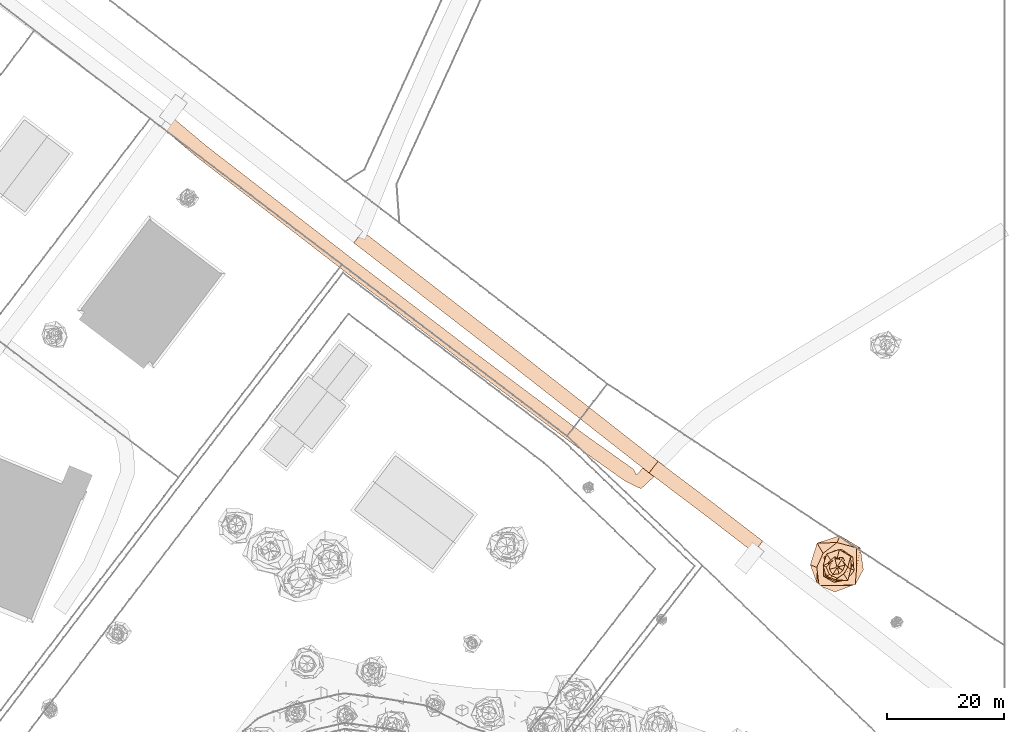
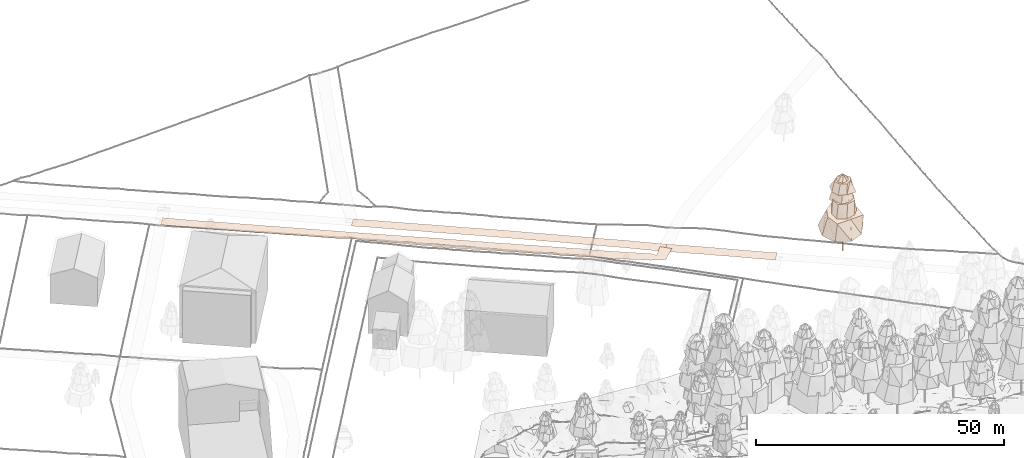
# Not in any storey, part 87 of 88: 4 geographic elements.
"""IFC4 model written with IfcOpenShell, lengths in metres."""

from ifc_helpers import new_model, si_unit, frame, origin_with_axes, place, context, subcontext, project, spatial, circle, extrude, faceted_brep, triangles, element, save


model = new_model("IFC4")

# Units and contexts
model_context = context("Model", 3, precision=1e-05, world=origin_with_axes())
body_context = subcontext(model_context, "Body", "Model", "MODEL_VIEW")
ifc_project = project(units=[si_unit("LENGTHUNIT", "METRE"), si_unit("AREAUNIT", "SQUARE_METRE"), si_unit("VOLUMEUNIT", "CUBIC_METRE"), si_unit("PLANEANGLEUNIT", "RADIAN")], contexts=[model_context])

# Sites
site_1_placement = place(None, origin_with_axes())
site_1 = spatial("IfcSite", under=ifc_project, at=site_1_placement, Name="CH907857693633", CompositionType="ELEMENT")
site_2_placement = place(None, origin_with_axes())
site_2 = spatial("IfcSite", under=site_1, at=site_2_placement, Name="Vegetation", CompositionType="ELEMENT")

# Geographic element
geographic_element_1_placement = place(None, frame((209.921000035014, 126.375003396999, 7.68109130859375), z_axis=(0.0, 0.0, 1.0), x_axis=(1.0, 0.0, 0.0)))
element("IfcGeographicElement", 1, at=geographic_element_1_placement, inside=site_2, Name="Tree_einzelbaum", ObjectType="VEGETATION", PredefinedType="USERDEFINED", context=body_context, shape_type="Brep", body=[
    extrude(circle(Radius=0.15), origin_with_axes(), (0.0, 0.0, 1.0), 5.04409912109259),
    faceted_brep([(4.46591493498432, -0.40213917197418, 5.04409912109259), (2.5869208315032, -3.09890882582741, 5.04409912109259), (-0.3806454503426, -4.2272186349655, 5.04409912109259), (-3.42627008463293, -2.86019691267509, 5.04409912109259), (-4.58660169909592, 0.413006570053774, 5.04409912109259), (-3.43208865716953, 4.11134724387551, 5.04409912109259), (0.484124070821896, 5.37638974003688, 5.04409912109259), (3.9413261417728, 3.2901576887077, 5.04409912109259), (3.25548679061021, 3.32255810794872, 9.57798317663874), (-0.0427895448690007, 4.19660084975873, 9.57798317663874), (-2.40839867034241, 2.35978116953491, 9.57798317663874), (-3.48304336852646, -0.0355139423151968, 9.57798317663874), (-3.08946653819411, -3.15311741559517, 9.57798317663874), (0.0316778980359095, -3.10682187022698, 9.57798317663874), (3.07125626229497, -3.00925788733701, 9.57798317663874), (3.32352738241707, 0.0338874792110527, 9.57798317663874), (3.9413261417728, 3.2901576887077, 5.04409912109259), (0.484124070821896, 5.37638974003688, 5.04409912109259), (-0.0427895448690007, 4.19660084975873, 9.57798317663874), (3.25548679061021, 3.32255810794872, 9.57798317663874), (0.484124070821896, 5.37638974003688, 5.04409912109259), (-3.43208865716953, 4.11134724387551, 5.04409912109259), (-2.40839867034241, 2.35978116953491, 9.57798317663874), (-0.0427895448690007, 4.19660084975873, 9.57798317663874), (-3.43208865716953, 4.11134724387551, 5.04409912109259), (-4.58660169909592, 0.413006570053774, 5.04409912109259), (-3.48304336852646, -0.0355139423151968, 9.57798317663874), (-2.40839867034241, 2.35978116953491, 9.57798317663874), (-4.58660169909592, 0.413006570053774, 5.04409912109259), (-3.42627008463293, -2.86019691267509, 5.04409912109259), (-3.08946653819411, -3.15311741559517, 9.57798317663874), (-3.48304336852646, -0.0355139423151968, 9.57798317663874), (-3.42627008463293, -2.86019691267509, 5.04409912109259), (-0.3806454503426, -4.2272186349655, 5.04409912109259), (0.0316778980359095, -3.10682187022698, 9.57798317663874), (-3.08946653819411, -3.15311741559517, 9.57798317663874), (-0.3806454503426, -4.2272186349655, 5.04409912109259), (2.5869208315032, -3.09890882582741, 5.04409912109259), (3.07125626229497, -3.00925788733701, 9.57798317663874), (0.0316778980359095, -3.10682187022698, 9.57798317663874), (2.5869208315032, -3.09890882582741, 5.04409912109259), (4.46591493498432, -0.40213917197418, 5.04409912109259), (3.32352738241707, 0.0338874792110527, 9.57798317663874), (3.07125626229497, -3.00925788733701, 9.57798317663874), (4.46591493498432, -0.40213917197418, 5.04409912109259), (3.9413261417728, 3.2901576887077, 5.04409912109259), (3.25548679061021, 3.32255810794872, 9.57798317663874), (3.32352738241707, 0.0338874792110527, 9.57798317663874)], [[[0, 1, 2, 3, 4, 5, 6, 7]], [[8, 9, 10, 11, 12, 13, 14, 15]], [[16, 17, 18, 19]], [[20, 21, 22, 23]], [[24, 25, 26, 27]], [[28, 29, 30, 31]], [[32, 33, 34, 35]], [[36, 37, 38, 39]], [[40, 41, 42, 43]], [[44, 45, 46, 47]]]),
    faceted_brep([(2.94812634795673, -0.623890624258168, 8.89790056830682), (1.43654336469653, -2.20776112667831, 8.89790056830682), (-0.552515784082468, -2.61085241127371, 8.89790056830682), (-2.3669569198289, -1.54012869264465, 8.89790056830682), (-2.34691301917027, 0.496660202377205, 8.89790056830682), (-1.43387037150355, 2.20365311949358, 8.89790056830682), (0.6732467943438, 3.18135348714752, 8.89790056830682), (2.7342347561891, 1.77910859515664, 8.89790056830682), (2.06122055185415, 1.65612563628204, 13.0570825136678), (0.240647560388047, 2.20829799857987, 13.0570825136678), (-1.41483675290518, 1.7609114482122, 13.0570825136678), (-2.16693121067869, 0.236139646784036, 13.0570825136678), (-2.03448978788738, -1.63464831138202, 13.0570825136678), (-0.25998897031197, -2.38578409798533, 13.0570825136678), (1.61368704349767, -2.00840131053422, 13.0570825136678), (2.40416358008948, -0.261991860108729, 13.0570825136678), (2.7342347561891, 1.77910859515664, 8.89790056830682), (0.6732467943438, 3.18135348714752, 8.89790056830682), (0.240647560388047, 2.20829799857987, 13.0570825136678), (2.06122055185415, 1.65612563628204, 13.0570825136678), (0.6732467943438, 3.18135348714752, 8.89790056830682), (-1.43387037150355, 2.20365311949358, 8.89790056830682), (-1.41483675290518, 1.7609114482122, 13.0570825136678), (0.240647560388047, 2.20829799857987, 13.0570825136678), (-1.43387037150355, 2.20365311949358, 8.89790056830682), (-2.34691301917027, 0.496660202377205, 8.89790056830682), (-2.16693121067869, 0.236139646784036, 13.0570825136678), (-1.41483675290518, 1.7609114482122, 13.0570825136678), (-2.34691301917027, 0.496660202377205, 8.89790056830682), (-2.3669569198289, -1.54012869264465, 8.89790056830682), (-2.03448978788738, -1.63464831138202, 13.0570825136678), (-2.16693121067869, 0.236139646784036, 13.0570825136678), (-2.3669569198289, -1.54012869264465, 8.89790056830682), (-0.552515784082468, -2.61085241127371, 8.89790056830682), (-0.25998897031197, -2.38578409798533, 13.0570825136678), (-2.03448978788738, -1.63464831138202, 13.0570825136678), (-0.552515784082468, -2.61085241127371, 8.89790056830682), (1.43654336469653, -2.20776112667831, 8.89790056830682), (1.61368704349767, -2.00840131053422, 13.0570825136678), (-0.25998897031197, -2.38578409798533, 13.0570825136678), (1.43654336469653, -2.20776112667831, 8.89790056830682), (2.94812634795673, -0.623890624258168, 8.89790056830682), (2.40416358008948, -0.261991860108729, 13.0570825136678), (1.61368704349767, -2.00840131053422, 13.0570825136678), (2.94812634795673, -0.623890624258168, 8.89790056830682), (2.7342347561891, 1.77910859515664, 8.89790056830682), (2.06122055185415, 1.65612563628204, 13.0570825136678), (2.40416358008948, -0.261991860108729, 13.0570825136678)], [[[0, 1, 2, 3, 4, 5, 6, 7]], [[8, 9, 10, 11, 12, 13, 14, 15]], [[16, 17, 18, 19]], [[20, 21, 22, 23]], [[24, 25, 26, 27]], [[28, 29, 30, 31]], [[32, 33, 34, 35]], [[36, 37, 38, 39]], [[40, 41, 42, 43]], [[44, 45, 46, 47]]]),
    faceted_brep([(1.79992255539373, -1.37208028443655, 12.4332052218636), (0.278519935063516, -2.06493393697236, 12.4332052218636), (-1.46054604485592, -1.91597372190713, 12.4332052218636), (-1.95584005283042, -0.263805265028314, 12.4332052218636), (-2.2463902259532, 1.71242242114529, 12.4332052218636), (-0.386849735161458, 2.86808607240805, 12.4332052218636), (1.3965947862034, 1.83208117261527, 12.4332052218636), (2.62991785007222, 0.354725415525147, 12.4332052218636), (1.47576198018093, 0.351884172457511, 15.6789238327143), (0.815355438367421, 1.32592815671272, 15.6789238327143), (-0.38976280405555, 1.63462062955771, 15.6789238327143), (-1.64325585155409, 1.01049034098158, 15.6789238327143), (-1.51506397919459, -0.361255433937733, 15.6789238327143), (-0.937257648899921, -1.52416510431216, 15.6789238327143), (0.320310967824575, -1.3433475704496, 15.6789238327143), (1.58520406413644, -0.974792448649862, 15.6789238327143), (2.62991785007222, 0.354725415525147, 12.4332052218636), (1.3965947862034, 1.83208117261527, 12.4332052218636), (0.815355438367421, 1.32592815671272, 15.6789238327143), (1.47576198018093, 0.351884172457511, 15.6789238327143), (1.3965947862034, 1.83208117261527, 12.4332052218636), (-0.386849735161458, 2.86808607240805, 12.4332052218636), (-0.38976280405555, 1.63462062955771, 15.6789238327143), (0.815355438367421, 1.32592815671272, 15.6789238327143), (-0.386849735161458, 2.86808607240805, 12.4332052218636), (-2.2463902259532, 1.71242242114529, 12.4332052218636), (-1.64325585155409, 1.01049034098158, 15.6789238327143), (-0.38976280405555, 1.63462062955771, 15.6789238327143), (-2.2463902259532, 1.71242242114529, 12.4332052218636), (-1.95584005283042, -0.263805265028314, 12.4332052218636), (-1.51506397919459, -0.361255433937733, 15.6789238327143), (-1.64325585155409, 1.01049034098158, 15.6789238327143), (-1.95584005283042, -0.263805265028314, 12.4332052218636), (-1.46054604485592, -1.91597372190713, 12.4332052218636), (-0.937257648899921, -1.52416510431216, 15.6789238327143), (-1.51506397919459, -0.361255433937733, 15.6789238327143), (-1.46054604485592, -1.91597372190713, 12.4332052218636), (0.278519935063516, -2.06493393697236, 12.4332052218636), (0.320310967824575, -1.3433475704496, 15.6789238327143), (-0.937257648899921, -1.52416510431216, 15.6789238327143), (0.278519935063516, -2.06493393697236, 12.4332052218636), (1.79992255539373, -1.37208028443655, 12.4332052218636), (1.58520406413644, -0.974792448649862, 15.6789238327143), (0.320310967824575, -1.3433475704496, 15.6789238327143), (1.79992255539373, -1.37208028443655, 12.4332052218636), (2.62991785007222, 0.354725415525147, 12.4332052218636), (1.47576198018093, 0.351884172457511, 15.6789238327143), (1.58520406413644, -0.974792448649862, 15.6789238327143)], [[[0, 1, 2, 3, 4, 5, 6, 7]], [[8, 9, 10, 11, 12, 13, 14, 15]], [[16, 17, 18, 19]], [[20, 21, 22, 23]], [[24, 25, 26, 27]], [[28, 29, 30, 31]], [[32, 33, 34, 35]], [[36, 37, 38, 39]], [[40, 41, 42, 43]], [[44, 45, 46, 47]]]),
    faceted_brep([(2.33274681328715, -0.271996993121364, 15.1920660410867), (1.8060802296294, -2.28284687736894, 15.1920660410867), (-0.249047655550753, -2.13592480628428, 15.1920660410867), (-1.90826394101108, -1.50972796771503, 15.1920660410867), (-2.39487504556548, 0.27924111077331, 15.1920660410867), (-1.7982225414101, 2.27291492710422, 15.1920660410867), (0.351010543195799, 3.0103962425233, 15.1920660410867), (2.29572239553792, 1.81626672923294, 15.1920660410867), (1.02431275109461, 0.991898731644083, 17.642808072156), (0.0258832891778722, 1.60998807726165, 17.642808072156), (-0.966063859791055, 0.997633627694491, 17.642808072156), (-1.90120150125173, 0.0305650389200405, 17.642808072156), (-1.30267973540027, -1.26145688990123, 17.642808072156), (-0.0305367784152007, -1.89944364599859, 17.642808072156), (1.10785460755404, -1.14405792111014, 17.642808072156), (1.78480872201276, -0.0286938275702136, 17.642808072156), (2.29572239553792, 1.81626672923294, 15.1920660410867), (0.351010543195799, 3.0103962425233, 15.1920660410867), (0.0258832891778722, 1.60998807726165, 17.642808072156), (1.02431275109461, 0.991898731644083, 17.642808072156), (0.351010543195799, 3.0103962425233, 15.1920660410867), (-1.7982225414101, 2.27291492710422, 15.1920660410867), (-0.966063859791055, 0.997633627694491, 17.642808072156), (0.0258832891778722, 1.60998807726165, 17.642808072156), (-1.7982225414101, 2.27291492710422, 15.1920660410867), (-2.39487504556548, 0.27924111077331, 15.1920660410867), (-1.90120150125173, 0.0305650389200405, 17.642808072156), (-0.966063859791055, 0.997633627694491, 17.642808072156), (-2.39487504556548, 0.27924111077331, 15.1920660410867), (-1.90826394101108, -1.50972796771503, 15.1920660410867), (-1.30267973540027, -1.26145688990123, 17.642808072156), (-1.90120150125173, 0.0305650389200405, 17.642808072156), (-1.90826394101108, -1.50972796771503, 15.1920660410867), (-0.249047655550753, -2.13592480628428, 15.1920660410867), (-0.0305367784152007, -1.89944364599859, 17.642808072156), (-1.30267973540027, -1.26145688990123, 17.642808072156), (-0.249047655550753, -2.13592480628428, 15.1920660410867), (1.8060802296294, -2.28284687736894, 15.1920660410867), (1.10785460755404, -1.14405792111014, 17.642808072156), (-0.0305367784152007, -1.89944364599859, 17.642808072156), (1.8060802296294, -2.28284687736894, 15.1920660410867), (2.33274681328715, -0.271996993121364, 15.1920660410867), (1.78480872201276, -0.0286938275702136, 17.642808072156), (1.10785460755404, -1.14405792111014, 17.642808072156), (2.33274681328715, -0.271996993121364, 15.1920660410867), (2.29572239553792, 1.81626672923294, 15.1920660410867), (1.02431275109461, 0.991898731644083, 17.642808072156), (1.78480872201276, -0.0286938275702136, 17.642808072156)], [[[0, 1, 2, 3, 4, 5, 6, 7]], [[8, 9, 10, 11, 12, 13, 14, 15]], [[16, 17, 18, 19]], [[20, 21, 22, 23]], [[24, 25, 26, 27]], [[28, 29, 30, 31]], [[32, 33, 34, 35]], [[36, 37, 38, 39]], [[40, 41, 42, 43]], [[44, 45, 46, 47]]]),
    faceted_brep([(1.20390016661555, -0.709050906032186, 17.2751967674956), (0.360175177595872, -1.39233812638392, 17.2751967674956), (-0.922962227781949, -1.5671009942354, 17.2751967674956), (-1.63808188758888, -0.423745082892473, 17.2751967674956), (-1.49501286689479, 0.880505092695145, 17.2751967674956), (-0.456876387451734, 1.76615839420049, 17.2751967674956), (0.967042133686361, 1.64194443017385, 17.2751967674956), (1.6442514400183, 0.425341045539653, 17.2751967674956), (0.166310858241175, 0.0612996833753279, 18.8910456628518), (0.0948000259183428, 0.205477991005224, 18.8910456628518), (-0.0839182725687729, 0.227676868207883, 18.8910456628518), (-0.169807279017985, 0.0783428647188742, 18.8910456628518), (-0.237791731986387, -0.0876464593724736, 18.8910456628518), (-0.0845764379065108, -0.18331847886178, 18.8910456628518), (0.0799846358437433, -0.217004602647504, 18.8910456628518), (0.172272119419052, -0.0794800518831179, 18.8910456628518), (1.6442514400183, 0.425341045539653, 17.2751967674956), (0.967042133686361, 1.64194443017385, 17.2751967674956), (0.0948000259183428, 0.205477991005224, 18.8910456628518), (0.166310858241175, 0.0612996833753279, 18.8910456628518), (0.967042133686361, 1.64194443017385, 17.2751967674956), (-0.456876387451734, 1.76615839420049, 17.2751967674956), (-0.0839182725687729, 0.227676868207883, 18.8910456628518), (0.0948000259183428, 0.205477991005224, 18.8910456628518), (-0.456876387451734, 1.76615839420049, 17.2751967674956), (-1.49501286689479, 0.880505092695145, 17.2751967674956), (-0.169807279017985, 0.0783428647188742, 18.8910456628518), (-0.0839182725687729, 0.227676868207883, 18.8910456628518), (-1.49501286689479, 0.880505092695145, 17.2751967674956), (-1.63808188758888, -0.423745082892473, 17.2751967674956), (-0.237791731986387, -0.0876464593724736, 18.8910456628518), (-0.169807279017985, 0.0783428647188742, 18.8910456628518), (-1.63808188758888, -0.423745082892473, 17.2751967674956), (-0.922962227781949, -1.5671009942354, 17.2751967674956), (-0.0845764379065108, -0.18331847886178, 18.8910456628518), (-0.237791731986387, -0.0876464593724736, 18.8910456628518), (-0.922962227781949, -1.5671009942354, 17.2751967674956), (0.360175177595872, -1.39233812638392, 17.2751967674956), (0.0799846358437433, -0.217004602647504, 18.8910456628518), (-0.0845764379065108, -0.18331847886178, 18.8910456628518), (0.360175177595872, -1.39233812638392, 17.2751967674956), (1.20390016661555, -0.709050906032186, 17.2751967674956), (0.172272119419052, -0.0794800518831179, 18.8910456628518), (0.0799846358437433, -0.217004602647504, 18.8910456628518), (1.20390016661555, -0.709050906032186, 17.2751967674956), (1.6442514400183, 0.425341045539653, 17.2751967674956), (0.166310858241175, 0.0612996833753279, 18.8910456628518), (0.172272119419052, -0.0794800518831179, 18.8910456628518)], [[[0, 1, 2, 3, 4, 5, 6, 7]], [[8, 9, 10, 11, 12, 13, 14, 15]], [[16, 17, 18, 19]], [[20, 21, 22, 23]], [[24, 25, 26, 27]], [[28, 29, 30, 31]], [[32, 33, 34, 35]], [[36, 37, 38, 39]], [[40, 41, 42, 43]], [[44, 45, 46, 47]]]),
])

# Site
site_3_placement = place(None, origin_with_axes())
site_3 = spatial("IfcSite", under=site_1, at=site_3_placement, Name="Roads", CompositionType="ELEMENT")

# Geographic elements
geographic_element_2_placement = place(None, origin_with_axes())
element("IfcGeographicElement", 2, at=geographic_element_2_placement, inside=site_3, Name="Road_weg", ObjectType="ROAD", PredefinedType="USERDEFINED", context=body_context, shape_type="Tessellation", body=[
    triangles([(195.719435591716, 128.854782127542, 8.88752441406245), (193.949835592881, 130.214382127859, 8.87690429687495), (192.180235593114, 131.573982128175, 8.86408691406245), (190.410635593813, 132.933582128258, 8.9232299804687), (188.641035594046, 134.293182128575, 8.9521606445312), (186.875971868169, 135.649313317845, 8.91962890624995), (185.081681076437, 137.002097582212, 8.98383789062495), (183.282881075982, 138.358297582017, 9.0123413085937), (181.484081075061, 139.714497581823, 8.9829223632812), (179.685281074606, 141.070697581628, 8.9984252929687), (177.886481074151, 142.426897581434, 8.9975708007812), (197.242564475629, 130.837224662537, 8.93891601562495), (195.472964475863, 132.196824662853, 8.9017456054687), (193.703364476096, 133.556424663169, 8.9538696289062), (191.933764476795, 134.916024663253, 8.92719726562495), (190.164164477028, 136.275624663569, 8.98786621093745), (188.390028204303, 137.638693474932, 8.9930541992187), (186.586718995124, 138.998309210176, 9.0299194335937), (184.787918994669, 140.354509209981, 9.05256347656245), (182.989118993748, 141.710709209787, 9.06879882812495), (181.190318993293, 143.066909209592, 9.0703247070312), (179.391518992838, 144.423109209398, 9.05329589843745)], [[1, 12, 2], [12, 13, 2], [2, 13, 3], [13, 14, 3], [3, 14, 4], [14, 15, 4], [4, 15, 5], [15, 16, 5], [5, 16, 6], [16, 17, 6], [6, 17, 7], [17, 18, 7], [7, 18, 8], [18, 19, 8], [8, 19, 9], [19, 20, 9], [9, 20, 10], [20, 21, 10], [10, 21, 11], [21, 22, 11]]),
])
geographic_element_3_placement = place(None, origin_with_axes())
element("IfcGeographicElement", 3, at=geographic_element_3_placement, inside=site_3, Name="Road_weg", ObjectType="ROAD", PredefinedType="USERDEFINED", context=body_context, shape_type="Tessellation", body=[
    triangles([(177.867883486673, 142.441194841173, 8.9975708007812), (176.231320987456, 143.723944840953, 9.0155151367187), (174.594758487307, 145.006694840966, 9.04011230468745), (172.958195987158, 146.289444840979, 9.06867675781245), (171.321633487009, 147.572194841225, 9.1064575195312), (169.685070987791, 148.854944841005, 9.11494140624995), (168.048508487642, 150.137694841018, 9.12458496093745), (166.411945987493, 151.420444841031, 9.14790039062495), (164.775383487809, 152.703194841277, 9.1301391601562), (163.138820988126, 153.985944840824, 9.14667968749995), (161.502258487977, 155.268694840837, 9.17573242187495), (159.865695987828, 156.55144484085, 9.1539428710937), (158.229133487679, 157.834194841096, 9.1601684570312), (156.592570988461, 159.116944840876, 9.1768920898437), (154.956008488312, 160.399694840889, 9.1821411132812), (153.319445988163, 161.682444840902, 9.1715209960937), (151.685952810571, 162.962796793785, 9.17658691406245), (150.08043176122, 164.204955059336, 9.1659057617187), (148.471765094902, 165.449555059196, 9.1997192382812), (146.863098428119, 166.694155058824, 9.19587402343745), (145.254431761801, 167.938755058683, 9.1839721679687), (143.645765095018, 169.183355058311, 9.1486938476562), (142.037098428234, 170.427955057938, 9.1594360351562), (140.428431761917, 171.672555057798, 9.12604980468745), (138.819765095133, 172.917155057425, 9.1638305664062), (137.211098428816, 174.161755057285, 9.1218383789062), (135.602431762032, 175.406355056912, 9.15498046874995), (133.993765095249, 176.650955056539, 9.14753417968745), (132.385098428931, 177.895555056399, 9.1507690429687), (130.776431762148, 179.140155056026, 9.15400390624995), (129.16776509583, 180.384755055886, 9.12348632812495), (127.559098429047, 181.629355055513, 9.10871582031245), (179.410116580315, 144.408811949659, 9.05329589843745), (177.773554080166, 145.691561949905, 9.10139160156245), (176.136991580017, 146.974311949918, 9.1001098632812), (174.500429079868, 148.257061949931, 9.13129882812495), (172.86386658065, 149.539811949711, 9.1767700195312), (171.227304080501, 150.822561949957, 9.16108398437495), (169.590741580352, 152.10531194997, 9.13837890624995), (167.954179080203, 153.388061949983, 9.16315917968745), (166.31761658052, 154.670811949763, 9.19916992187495), (164.681054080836, 155.953561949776, 9.16657714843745), (163.044491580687, 157.23631194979, 9.19099121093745), (161.407929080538, 158.519061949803, 9.1949584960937), (159.771366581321, 159.801811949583, 9.1980102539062), (158.134804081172, 161.084561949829, 9.18635253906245), (156.498241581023, 162.367311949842, 9.2061889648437), (154.861679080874, 163.650061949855, 9.2049682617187), (153.2220472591, 164.935209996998, 9.21992187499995), (151.610234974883, 166.182251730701, 9.20502929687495), (150.001568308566, 167.426851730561, 9.1998413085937), (148.392901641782, 168.671451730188, 9.1800659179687), (146.784234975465, 169.916051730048, 9.1628540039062), (145.175568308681, 171.160651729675, 9.18500976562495), (143.566901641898, 172.405251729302, 9.18659667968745), (141.95823497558, 173.649851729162, 9.1815307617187), (140.349568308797, 174.894451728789, 9.1793334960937), (138.740901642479, 176.139051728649, 9.16535644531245), (137.132234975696, 177.383651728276, 9.16047363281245), (135.523568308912, 178.628251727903, 9.1441772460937), (133.914901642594, 179.872851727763, 9.1478393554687), (132.306234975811, 181.11745172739, 9.14790039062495), (130.697568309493, 182.36205172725, 9.1327026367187), (129.08890164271, 183.606651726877, 9.1286743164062)], [[1, 33, 2], [33, 34, 2], [2, 34, 3], [34, 35, 3], [3, 35, 4], [35, 36, 4], [4, 36, 5], [36, 37, 5], [5, 37, 6], [37, 38, 6], [6, 38, 7], [38, 39, 7], [7, 39, 8], [39, 40, 8], [8, 40, 9], [40, 41, 9], [9, 41, 10], [41, 42, 10], [10, 42, 11], [42, 43, 11], [11, 43, 12], [43, 44, 12], [12, 44, 13], [44, 45, 13], [13, 45, 14], [45, 46, 14], [14, 46, 15], [46, 47, 15], [15, 47, 16], [47, 48, 16], [16, 48, 17], [48, 49, 17], [17, 49, 18], [49, 50, 18], [18, 50, 19], [50, 51, 19], [19, 51, 20], [51, 52, 20], [20, 52, 21], [52, 53, 21], [21, 53, 22], [53, 54, 22], [22, 54, 23], [54, 55, 23], [23, 55, 24], [55, 56, 24], [24, 56, 25], [56, 57, 25], [25, 57, 26], [57, 58, 26], [26, 58, 27], [58, 59, 27], [27, 59, 28], [59, 60, 28], [28, 60, 29], [60, 61, 29], [29, 61, 30], [61, 62, 30], [30, 62, 31], [62, 63, 31], [31, 63, 32], [63, 64, 32]]),
])
geographic_element_4_placement = place(None, origin_with_axes())
element("IfcGeographicElement", 4, at=geographic_element_4_placement, inside=site_3, Name="Road_weg", ObjectType="ROAD", PredefinedType="USERDEFINED", context=body_context, shape_type="Tessellation", body=[
    triangles([(96.2609565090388, 203.354321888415, 8.95209960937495), (98.2869565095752, 201.648988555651, 8.9703491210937), (100.312956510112, 199.94365522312, 9.0184448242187), (102.321728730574, 198.252561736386, 9.0973022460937), (103.920289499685, 197.01568418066, 9.13801269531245), (105.541476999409, 195.760871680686, 9.1490600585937), (107.162664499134, 194.506059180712, 9.1668823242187), (108.783851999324, 193.251246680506, 9.1501586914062), (110.405039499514, 191.996434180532, 9.16767578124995), (112.026226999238, 190.741621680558, 9.1439331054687), (113.647414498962, 189.486809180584, 9.1757934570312), (115.268601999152, 188.23199668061, 9.1844604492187), (116.889789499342, 186.977184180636, 9.1943481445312), (118.510976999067, 185.722371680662, 9.18317871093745), (120.132164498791, 184.467559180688, 9.2060668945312), (121.753351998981, 183.212746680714, 9.20258789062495), (123.374539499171, 181.957934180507, 9.20551757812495), (124.995726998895, 180.703121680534, 9.2218139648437), (126.61691449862, 179.44830918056, 9.1927612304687), (128.234800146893, 178.196043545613, 9.22614746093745), (129.946321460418, 176.889036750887, 9.22224121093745), (131.660988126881, 175.57962008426, 9.22456054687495), (133.375654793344, 174.270203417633, 9.2606323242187), (135.090321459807, 172.960786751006, 9.25458984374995), (136.80498812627, 171.651370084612, 9.25275878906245), (138.519654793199, 170.341953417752, 9.27485351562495), (140.234321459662, 169.032536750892, 9.29572753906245), (141.948988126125, 167.723120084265, 9.2891967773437), (143.663654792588, 166.413703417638, 9.28352050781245), (145.378321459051, 165.104286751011, 9.27253417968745), (147.092988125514, 163.794870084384, 9.28645019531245), (148.802359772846, 162.489474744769, 9.25178222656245), (150.451988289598, 161.25791753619, 9.23725585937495), (152.10717010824, 160.022190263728, 9.2629516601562), (153.762351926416, 158.786462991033, 9.2213256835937), (155.417533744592, 157.550735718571, 9.25751953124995), (157.072715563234, 156.315008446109, 9.2164428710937), (158.72789738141, 155.079281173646, 9.2226684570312), (160.383079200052, 153.843553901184, 9.1970336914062), (162.038261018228, 152.607826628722, 9.19160156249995), (163.693442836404, 151.372099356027, 9.20942382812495), (165.348624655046, 150.136372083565, 9.14094238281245), (166.991570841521, 148.909664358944, 9.0936401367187), (168.620900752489, 147.754765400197, 9.05720214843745), (170.262900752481, 146.590765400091, 9.0440795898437), (171.904900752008, 145.426765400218, 9.0329711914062), (173.546900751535, 144.262765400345, 9.0022094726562), (175.188900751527, 143.098765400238, 8.9732788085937), (175.724279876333, 142.104649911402, 9.0118530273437), (177.75880631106, 144.312561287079, 9.1025512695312), (94.6510435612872, 201.44168488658, 8.9321411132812), (96.6770435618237, 199.736351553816, 8.9304321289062), (98.7030435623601, 198.031018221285, 9.0044067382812), (100.74627134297, 196.311445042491, 9.0868041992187), (102.390085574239, 195.038697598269, 9.0739868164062), (104.011273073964, 193.783885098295, 9.08308105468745), (105.632460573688, 192.529072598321, 9.0764282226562), (107.253648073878, 191.274260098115, 9.08344726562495), (108.874835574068, 190.019447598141, 9.09895019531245), (110.496023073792, 188.764635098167, 9.11591796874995), (112.117210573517, 187.509822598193, 9.1292846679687), (113.738398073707, 186.255010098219, 9.13288574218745), (115.359585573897, 185.000197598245, 9.18781738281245), (116.980773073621, 183.745385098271, 9.1901977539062), (118.601960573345, 182.490572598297, 9.15217285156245), (120.223148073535, 181.235760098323, 9.1959350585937), (121.844335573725, 179.980947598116, 9.19208984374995), (123.46552307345, 178.726135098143, 9.17512207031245), (125.086710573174, 177.471322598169, 9.51289062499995), (126.711199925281, 176.213963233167, 9.1904418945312), (128.429011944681, 174.90213669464, 9.23933105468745), (130.143678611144, 173.592720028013, 9.2009399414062), (131.858345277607, 172.283303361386, 9.16816406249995), (133.57301194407, 170.973886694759, 9.10590820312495), (135.287678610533, 169.664470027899, 9.04414062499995), (137.002345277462, 168.35505336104, 9.0429809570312), (138.717011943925, 167.045636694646, 8.99006347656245), (140.431678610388, 165.736220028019, 8.9694946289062), (142.146345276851, 164.426803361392, 8.9443481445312), (143.861011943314, 163.117386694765, 8.95466308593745), (145.575678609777, 161.807970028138, 9.02302246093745), (147.295640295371, 160.4945320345, 9.03437499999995), (148.956375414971, 159.254634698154, 9.0362670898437), (150.611557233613, 158.018907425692, 9.0465209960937), (152.266739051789, 156.783180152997, 9.0637329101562), (153.921920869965, 155.547452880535, 9.0338256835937), (155.577102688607, 154.311725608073, 9.0835083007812), (157.232284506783, 153.075998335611, 9.02814941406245), (158.887466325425, 151.840271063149, 9.0067260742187), (160.542648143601, 150.604543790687, 8.96723632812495), (162.197829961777, 149.368816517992, 9.0805786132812), (163.853011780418, 148.13308924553, 9.1052368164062), (165.520429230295, 146.888342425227, 9.15034179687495), (167.175099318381, 145.715241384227, 9.0122192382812), (168.817099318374, 144.551241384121, 9.05183105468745), (170.459099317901, 143.387241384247, 9.09150390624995), (172.101099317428, 142.223241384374, 9.1211059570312), (173.74309931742, 141.059241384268, 9.1176879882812), (176.491720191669, 139.725356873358, 9.11970214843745), (179.519193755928, 142.537445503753, 9.07880859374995)], [[1, 51, 2], [51, 52, 2], [2, 52, 3], [52, 53, 3], [3, 53, 4], [53, 54, 4], [4, 54, 5], [54, 55, 5], [5, 55, 6], [55, 56, 6], [6, 56, 7], [56, 57, 7], [7, 57, 8], [57, 58, 8], [8, 58, 9], [58, 59, 9], [9, 59, 10], [59, 60, 10], [10, 60, 11], [60, 61, 11], [11, 61, 12], [61, 62, 12], [12, 62, 13], [62, 63, 13], [13, 63, 14], [63, 64, 14], [14, 64, 15], [64, 65, 15], [15, 65, 16], [65, 66, 16], [16, 66, 17], [66, 67, 17], [17, 67, 18], [67, 68, 18], [18, 68, 19], [68, 69, 19], [19, 69, 20], [69, 70, 20], [20, 70, 21], [70, 71, 21], [21, 71, 22], [71, 72, 22], [22, 72, 23], [72, 73, 23], [23, 73, 24], [73, 74, 24], [24, 74, 25], [74, 75, 25], [25, 75, 26], [75, 76, 26], [26, 76, 27], [76, 77, 27], [27, 77, 28], [77, 78, 28], [28, 78, 29], [78, 79, 29], [29, 79, 30], [79, 80, 30], [30, 80, 31], [80, 81, 31], [31, 81, 32], [81, 82, 32], [32, 82, 33], [82, 83, 33], [33, 83, 34], [83, 84, 34], [34, 84, 35], [84, 85, 35], [35, 85, 36], [85, 86, 36], [36, 86, 37], [86, 87, 37], [37, 87, 38], [87, 88, 38], [38, 88, 39], [88, 89, 39], [39, 89, 40], [89, 90, 40], [40, 90, 41], [90, 91, 41], [41, 91, 42], [91, 92, 42], [42, 92, 43], [92, 93, 43], [43, 93, 44], [93, 94, 44], [44, 94, 45], [94, 95, 45], [45, 95, 46], [95, 96, 46], [46, 96, 47], [96, 97, 47], [47, 97, 48], [97, 98, 48], [48, 98, 49], [98, 99, 49], [49, 99, 50], [99, 100, 50]]),
])

save(model, "model.ifc")
